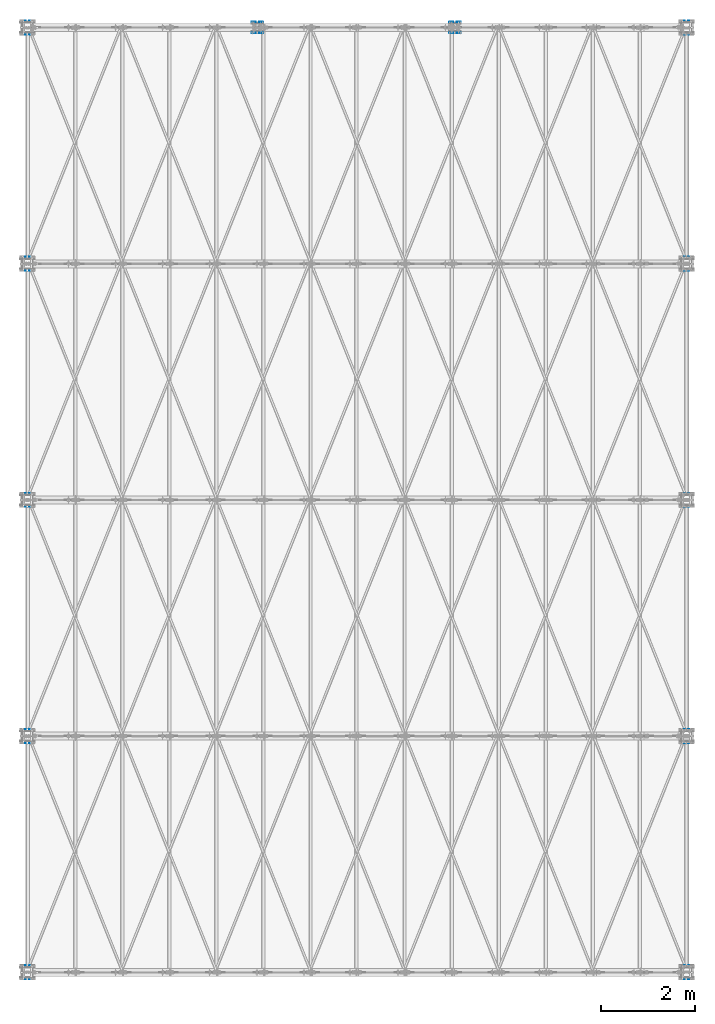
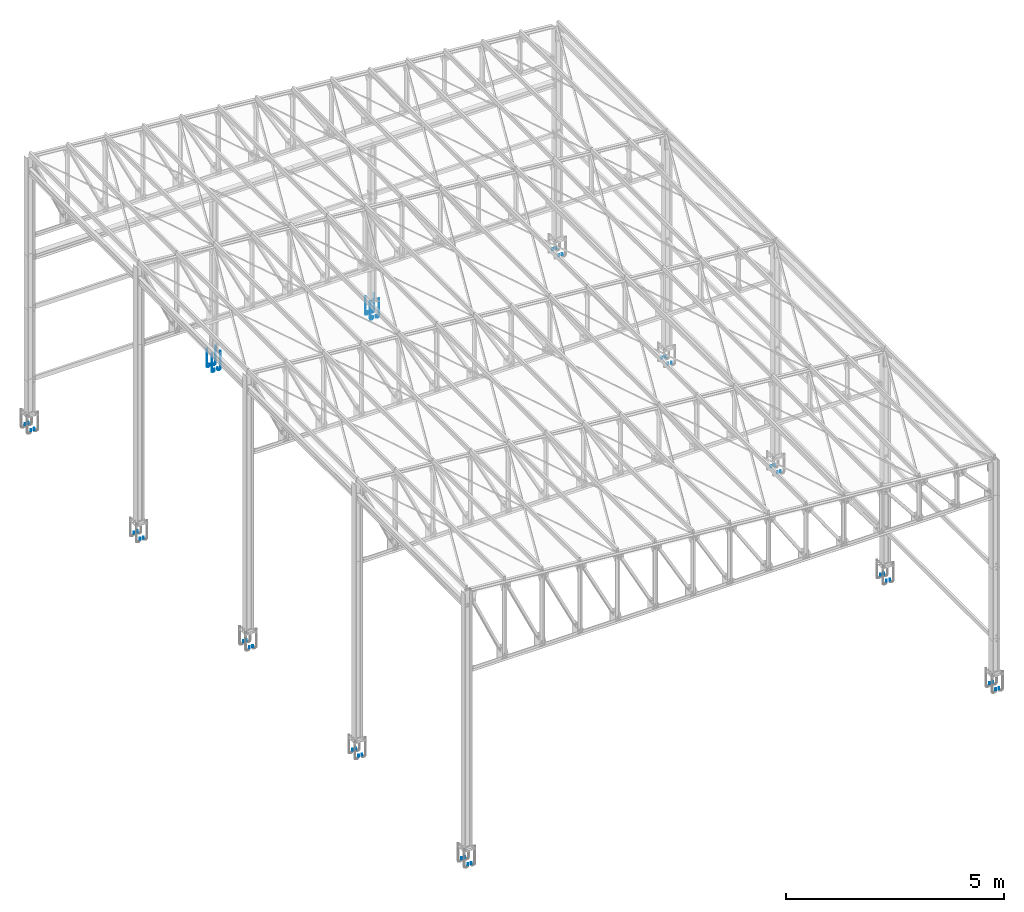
# One storey, part 18 of 251: 4 reinforcing bars.
"""IFC4 building model written with IfcOpenShell, lengths in metres."""

from ifc_helpers import new_model, entity, si_unit, origin_with_axes, place, context, project, spatial, source, transform, mapped, element, save


model = new_model("IFC4")

# Units and contexts
model_context = context("Model", 3, precision=1e-05, world=origin_with_axes())
ifc_project = project(units=[si_unit("LENGTHUNIT", "METRE"), si_unit("AREAUNIT", "SQUARE_METRE"), si_unit("VOLUMEUNIT", "CUBIC_METRE"), si_unit("MASSUNIT", "GRAM", prefix="KILO"), si_unit("TIMEUNIT", "SECOND"), si_unit("PLANEANGLEUNIT", "RADIAN"), si_unit("SOLIDANGLEUNIT", "STERADIAN"), si_unit("THERMODYNAMICTEMPERATUREUNIT", "DEGREE_CELSIUS")], contexts=[model_context])

# Site, building, storey
placement_1 = place(None, origin_with_axes())
site = spatial("IfcSite", under=ifc_project, at=placement_1, Name="Italia", CompositionType="ELEMENT")
building = spatial("IfcBuilding", under=site, at=placement_1, Name="Deposito", CompositionType="ELEMENT")
storey = spatial("IfcBuildingStorey", under=building, at=placement_1, Name="Storey 0", CompositionType="ELEMENT", Elevation=0.0)

# Reinforcing bars
shared_shape_1 = source(origin_with_axes(), model_context, "Body", "AdvancedSweptSolid", [
    entity("IfcSweptDiskSolid", entity("IfcIndexedPolyCurve", entity("IfcCartesianPointList3D", [[20.0435, -0.139, -0.344], [20.0435, -0.139, -0.296]]), [entity("IfcLineIndex", [1, 2])], False), 0.008),
])
placement_2 = place(placement_1, origin_with_axes())
reinforcing_bar_1_placement = place(placement_2, origin_with_axes())
element("IfcReinforcingBar", 1, at=reinforcing_bar_1_placement, inside=storey, BarLength=0.0479995, CrossSectionArea=0.00020106, NominalDiameter=0.016, context=model_context, shape_type="MappedRepresentation", body=[
    mapped(shared_shape_1, transform((-14.037, 15.0, 0.0), x_axis=(1.0, 0.0, 0.0), y_axis=(0.0, 1.0, 0.0), z_axis=(0.0, 0.0, 1.0), scale=1.0)),
    mapped(shared_shape_1, transform((-13.95, 15.278, 0.0), x_axis=(1.0, 0.0, 0.0), y_axis=(0.0, 1.0, 0.0), z_axis=(0.0, 0.0, 1.0), scale=1.0)),
    mapped(shared_shape_1, transform((0.0, 15.0, 0.0), x_axis=(1.0, 0.0, 0.0), y_axis=(0.0, 1.0, 0.0), z_axis=(0.0, 0.0, 1.0), scale=1.0)),
    mapped(shared_shape_1, transform((-14.037, 15.278, 0.0), x_axis=(1.0, 0.0, 0.0), y_axis=(0.0, 1.0, 0.0), z_axis=(0.0, 0.0, 1.0), scale=1.0)),
    mapped(shared_shape_1, transform((0.0, 10.0, 0.0), x_axis=(1.0, 0.0, 0.0), y_axis=(0.0, 1.0, 0.0), z_axis=(0.0, 0.0, 1.0), scale=1.0)),
    mapped(shared_shape_1, transform((0.0, 15.278, 0.0), x_axis=(1.0, 0.0, 0.0), y_axis=(0.0, 1.0, 0.0), z_axis=(0.0, 0.0, 1.0), scale=1.0)),
    mapped(shared_shape_1, transform((-0.086998, 10.0, 0.0), x_axis=(1.0, 0.0, 0.0), y_axis=(0.0, 1.0, 0.0), z_axis=(0.0, 0.0, 1.0), scale=1.0)),
    mapped(shared_shape_1, transform((0.0, 10.278, 0.0), x_axis=(1.0, 0.0, 0.0), y_axis=(0.0, 1.0, 0.0), z_axis=(0.0, 0.0, 1.0), scale=1.0)),
    mapped(shared_shape_1, transform((-13.95, 15.0, 0.0), x_axis=(1.0, 0.0, 0.0), y_axis=(0.0, 1.0, 0.0), z_axis=(0.0, 0.0, 1.0), scale=1.0)),
    mapped(shared_shape_1, transform((-0.086998, 10.278, 0.0), x_axis=(1.0, 0.0, 0.0), y_axis=(0.0, 1.0, 0.0), z_axis=(0.0, 0.0, 1.0), scale=1.0)),
    mapped(shared_shape_1, transform((0.0, 20.0, 0.0), x_axis=(1.0, 0.0, 0.0), y_axis=(0.0, 1.0, 0.0), z_axis=(0.0, 0.0, 1.0), scale=1.0)),
    mapped(shared_shape_1, transform((-14.037, 20.278, 0.0), x_axis=(1.0, 0.0, 0.0), y_axis=(0.0, 1.0, 0.0), z_axis=(0.0, 0.0, 1.0), scale=1.0)),
    mapped(shared_shape_1, transform((-0.086998, 20.0, 0.0), x_axis=(1.0, 0.0, 0.0), y_axis=(0.0, 1.0, 0.0), z_axis=(0.0, 0.0, 1.0), scale=1.0)),
    mapped(shared_shape_1, transform((0.0, 20.278, 0.0), x_axis=(1.0, 0.0, 0.0), y_axis=(0.0, 1.0, 0.0), z_axis=(0.0, 0.0, 1.0), scale=1.0)),
    mapped(shared_shape_1, transform((-0.086998, 15.0, 0.0), x_axis=(1.0, 0.0, 0.0), y_axis=(0.0, 1.0, 0.0), z_axis=(0.0, 0.0, 1.0), scale=1.0)),
    mapped(shared_shape_1, transform((-0.086998, 20.278, 0.0), x_axis=(1.0, 0.0, 0.0), y_axis=(0.0, 1.0, 0.0), z_axis=(0.0, 0.0, 1.0), scale=1.0)),
    mapped(shared_shape_1, transform((-13.95, 20.0, 0.0), x_axis=(1.0, 0.0, 0.0), y_axis=(0.0, 1.0, 0.0), z_axis=(0.0, 0.0, 1.0), scale=1.0)),
    mapped(shared_shape_1, transform((-0.086998, 15.278, 0.0), x_axis=(1.0, 0.0, 0.0), y_axis=(0.0, 1.0, 0.0), z_axis=(0.0, 0.0, 1.0), scale=1.0)),
    mapped(shared_shape_1, transform((-14.037, 20.0, 0.0), x_axis=(1.0, 0.0, 0.0), y_axis=(0.0, 1.0, 0.0), z_axis=(0.0, 0.0, 1.0), scale=1.0)),
    mapped(shared_shape_1, transform((-13.95, 20.278, 0.0), x_axis=(1.0, 0.0, 0.0), y_axis=(0.0, 1.0, 0.0), z_axis=(0.0, 0.0, 1.0), scale=1.0)),
    mapped(shared_shape_1, transform((-14.037, 0.0, 0.0), x_axis=(1.0, 0.0, 0.0), y_axis=(0.0, 1.0, 0.0), z_axis=(0.0, 0.0, 1.0), scale=1.0)),
    mapped(shared_shape_1, transform((-13.95, 0.278, 0.0), x_axis=(1.0, 0.0, 0.0), y_axis=(0.0, 1.0, 0.0), z_axis=(0.0, 0.0, 1.0), scale=1.0)),
    mapped(shared_shape_1, transform((-13.95, 5.0, 0.0), x_axis=(1.0, 0.0, 0.0), y_axis=(0.0, 1.0, 0.0), z_axis=(0.0, 0.0, 1.0), scale=1.0)),
    mapped(shared_shape_1, transform((-14.037, 0.278, 0.0), x_axis=(1.0, 0.0, 0.0), y_axis=(0.0, 1.0, 0.0), z_axis=(0.0, 0.0, 1.0), scale=1.0)),
    mapped(shared_shape_1, transform((0.0, 0.0, 0.0), x_axis=(1.0, 0.0, 0.0), y_axis=(0.0, 1.0, 0.0), z_axis=(0.0, 0.0, 1.0), scale=1.0)),
    mapped(shared_shape_1, transform((-13.95, 5.278, 0.0), x_axis=(1.0, 0.0, 0.0), y_axis=(0.0, 1.0, 0.0), z_axis=(0.0, 0.0, 1.0), scale=1.0)),
    mapped(shared_shape_1, transform((-0.086998, 0.0, 0.0), x_axis=(1.0, 0.0, 0.0), y_axis=(0.0, 1.0, 0.0), z_axis=(0.0, 0.0, 1.0), scale=1.0)),
    mapped(shared_shape_1, transform((0.0, 0.278, 0.0), x_axis=(1.0, 0.0, 0.0), y_axis=(0.0, 1.0, 0.0), z_axis=(0.0, 0.0, 1.0), scale=1.0)),
    mapped(shared_shape_1, transform((-13.95, 0.0, 0.0), x_axis=(1.0, 0.0, 0.0), y_axis=(0.0, 1.0, 0.0), z_axis=(0.0, 0.0, 1.0), scale=1.0)),
    mapped(shared_shape_1, transform((-0.086998, 0.278, 0.0), x_axis=(1.0, 0.0, 0.0), y_axis=(0.0, 1.0, 0.0), z_axis=(0.0, 0.0, 1.0), scale=1.0)),
    mapped(shared_shape_1, transform((-13.95, 10.0, 0.0), x_axis=(1.0, 0.0, 0.0), y_axis=(0.0, 1.0, 0.0), z_axis=(0.0, 0.0, 1.0), scale=1.0)),
    mapped(shared_shape_1, transform((-0.086998, 5.278, 0.0), x_axis=(1.0, 0.0, 0.0), y_axis=(0.0, 1.0, 0.0), z_axis=(0.0, 0.0, 1.0), scale=1.0)),
    mapped(shared_shape_1, transform((-14.037, 10.0, 0.0), x_axis=(1.0, 0.0, 0.0), y_axis=(0.0, 1.0, 0.0), z_axis=(0.0, 0.0, 1.0), scale=1.0)),
    mapped(shared_shape_1, transform((-13.95, 10.278, 0.0), x_axis=(1.0, 0.0, 0.0), y_axis=(0.0, 1.0, 0.0), z_axis=(0.0, 0.0, 1.0), scale=1.0)),
    mapped(shared_shape_1, transform((-14.037, 5.0, 0.0), x_axis=(1.0, 0.0, 0.0), y_axis=(0.0, 1.0, 0.0), z_axis=(0.0, 0.0, 1.0), scale=1.0)),
    mapped(shared_shape_1, transform((-14.037, 10.278, 0.0), x_axis=(1.0, 0.0, 0.0), y_axis=(0.0, 1.0, 0.0), z_axis=(0.0, 0.0, 1.0), scale=1.0)),
    mapped(shared_shape_1, transform((0.0, 5.0, 0.0), x_axis=(1.0, 0.0, 0.0), y_axis=(0.0, 1.0, 0.0), z_axis=(0.0, 0.0, 1.0), scale=1.0)),
    mapped(shared_shape_1, transform((-14.037, 5.278, 0.0), x_axis=(1.0, 0.0, 0.0), y_axis=(0.0, 1.0, 0.0), z_axis=(0.0, 0.0, 1.0), scale=1.0)),
    mapped(shared_shape_1, transform((-0.086998, 5.0, 0.0), x_axis=(1.0, 0.0, 0.0), y_axis=(0.0, 1.0, 0.0), z_axis=(0.0, 0.0, 1.0), scale=1.0)),
    mapped(shared_shape_1, transform((0.0, 5.278, 0.0), x_axis=(1.0, 0.0, 0.0), y_axis=(0.0, 1.0, 0.0), z_axis=(0.0, 0.0, 1.0), scale=1.0)),
])
shared_shape_2 = source(origin_with_axes(), model_context, "Body", "AdvancedSweptSolid", [
    entity("IfcSweptDiskSolid", entity("IfcIndexedPolyCurve", entity("IfcCartesianPointList3D", [[11.028, 19.886, 0.12], [11.028, 19.886, -0.358]]), [entity("IfcLineIndex", [1, 2])], False), 0.006),
])
reinforcing_bar_2_placement = place(placement_2, origin_with_axes())
element("IfcReinforcingBar", 2, at=reinforcing_bar_2_placement, inside=storey, BarLength=0.478, CrossSectionArea=0.0001131, NominalDiameter=0.012, context=model_context, shape_type="MappedRepresentation", body=[
    mapped(shared_shape_2, transform((4.185, 0.228001, 0.0), x_axis=(1.0, 0.0, 0.0), y_axis=(0.0, 1.0, 0.0), z_axis=(0.0, 0.0, 1.0), scale=1.0)),
    mapped(shared_shape_2, transform((4.185, 0.0, 0.0), x_axis=(1.0, 0.0, 0.0), y_axis=(0.0, 1.0, 0.0), z_axis=(0.0, 0.0, 1.0), scale=1.0)),
    mapped(shared_shape_2, transform((3.959, 0.228001, 0.0), x_axis=(1.0, 0.0, 0.0), y_axis=(0.0, 1.0, 0.0), z_axis=(0.0, 0.0, 1.0), scale=1.0)),
    mapped(shared_shape_2, transform((3.959, 0.0, 0.0), x_axis=(1.0, 0.0, 0.0), y_axis=(0.0, 1.0, 0.0), z_axis=(0.0, 0.0, 1.0), scale=1.0)),
    mapped(shared_shape_2, transform((0.0, 0.228001, 0.0), x_axis=(1.0, 0.0, 0.0), y_axis=(0.0, 1.0, 0.0), z_axis=(0.0, 0.0, 1.0), scale=1.0)),
    mapped(shared_shape_2, transform((0.0, 0.0, 0.0), x_axis=(1.0, 0.0, 0.0), y_axis=(0.0, 1.0, 0.0), z_axis=(0.0, 0.0, 1.0), scale=1.0)),
    mapped(shared_shape_2, transform((-0.226, 0.228001, 0.0), x_axis=(1.0, 0.0, 0.0), y_axis=(0.0, 1.0, 0.0), z_axis=(0.0, 0.0, 1.0), scale=1.0)),
    mapped(shared_shape_2, transform((-0.226, 0.0, 0.0), x_axis=(1.0, 0.0, 0.0), y_axis=(0.0, 1.0, 0.0), z_axis=(0.0, 0.0, 1.0), scale=1.0)),
])
shared_shape_3 = source(origin_with_axes(), model_context, "Body", "AdvancedSweptSolid", [
    entity("IfcSweptDiskSolid", entity("IfcIndexedPolyCurve", entity("IfcCartesianPointList3D", [[11.028, 19.886, -0.358], [11.0253, 19.886, -0.371777]]), [entity("IfcLineIndex", [1, 2])], False), 0.006),
])
reinforcing_bar_3_placement = place(placement_2, origin_with_axes())
element("IfcReinforcingBar", 3, at=reinforcing_bar_3_placement, inside=storey, BarLength=0.0140467, CrossSectionArea=0.0001131, NominalDiameter=0.012, context=model_context, shape_type="MappedRepresentation", body=[
    mapped(shared_shape_3, transform((21.83, 39.772, 0.0), x_axis=(-1.0, 0.0, 0.0), y_axis=(0.0, -1.0, 0.0), z_axis=(0.0, 0.0, 1.0), scale=1.0)),
    mapped(shared_shape_3, transform((21.83, 40.0, 0.0), x_axis=(-1.0, 0.0, 0.0), y_axis=(0.0, -1.0, 0.0), z_axis=(0.0, 0.0, 1.0), scale=1.0)),
    mapped(shared_shape_3, transform((11.3496, 0.0, 10.634), x_axis=(3.98755e-05, 0.0, -1.0), y_axis=(0.0, 1.0, 0.0), z_axis=(1.0, 0.0, 3.98755e-05), scale=1.0)),
    mapped(shared_shape_3, transform((15.5288, 0.0, 9.66048), x_axis=(-0.382643, 0.0, -0.923896), y_axis=(0.0, 1.0, 0.0), z_axis=(0.923896, 0.0, -0.382643), scale=1.0)),
    mapped(shared_shape_3, transform((0.973313, 0.0, 4.17832), x_axis=(0.923913, 0.0, -0.382602), y_axis=(0.0, 1.0, 0.0), z_axis=(0.382602, 0.0, 0.923913), scale=1.0)),
    mapped(shared_shape_3, transform((21.284, 0.0, 3.51836), x_axis=(-0.923856, 0.0, -0.382741), y_axis=(0.0, 1.0, 0.0), z_axis=(0.382741, 0.0, -0.923855), scale=1.0)),
    mapped(shared_shape_3, transform((0.0, 0.0, 0.0), x_axis=(1.0, 0.0, 0.0), y_axis=(0.0, 1.0, 0.0), z_axis=(0.0, 0.0, 1.0), scale=1.0)),
    mapped(shared_shape_3, transform((3.47248, 0.227999, 7.66752), x_axis=(0.70712, 0.0, -0.707094), y_axis=(0.0, 1.0, 0.0), z_axis=(0.707094, 0.0, 0.70712), scale=1.0)),
    mapped(shared_shape_3, transform((7.11586, 0.0, 9.93412), x_axis=(0.382722, 0.0, -0.923864), y_axis=(0.0, 1.0, 0.0), z_axis=(0.923864, 0.0, 0.382722), scale=1.0)),
    mapped(shared_shape_3, transform((19.0174, 0.0, 7.16163), x_axis=(-0.707084, 0.0, -0.70713), y_axis=(0.0, 1.0, 0.0), z_axis=(0.70713, 0.0, -0.707084), scale=1.0)),
    mapped(shared_shape_3, transform((19.7138, 0.0, 9.66048), x_axis=(-0.382643, 0.0, -0.923896), y_axis=(0.0, 1.0, 0.0), z_axis=(0.923896, 0.0, -0.382643), scale=1.0)),
    mapped(shared_shape_3, transform((0.0, 0.227999, 0.0), x_axis=(1.0, 0.0, 0.0), y_axis=(0.0, 1.0, 0.0), z_axis=(0.0, 0.0, 1.0), scale=1.0)),
    mapped(shared_shape_3, transform((0.545959, 39.772, 3.51836), x_axis=(0.923856, 0.0, -0.382741), y_axis=(0.0, -1.0, 0.0), z_axis=(-0.382741, 0.0, -0.923855), scale=1.0)),
    mapped(shared_shape_3, transform((0.545959, 40.0, 3.51836), x_axis=(0.923856, 0.0, -0.382741), y_axis=(0.0, -1.0, 0.0), z_axis=(-0.382741, 0.0, -0.923855), scale=1.0)),
    mapped(shared_shape_3, transform((3.47248, 0.0, 7.66752), x_axis=(0.70712, 0.0, -0.707094), y_axis=(0.0, 1.0, 0.0), z_axis=(0.707094, 0.0, 0.70712), scale=1.0)),
    mapped(shared_shape_3, transform((0.973313, 0.227999, 4.17832), x_axis=(0.923913, 0.0, -0.382602), y_axis=(0.0, 1.0, 0.0), z_axis=(0.382602, 0.0, 0.923913), scale=1.0)),
    mapped(shared_shape_3, transform((2.81258, 39.772, 7.16163), x_axis=(0.707084, 0.0, -0.70713), y_axis=(0.0, -1.0, 0.0), z_axis=(-0.70713, 0.0, -0.707084), scale=1.0)),
    mapped(shared_shape_3, transform((2.81258, 40.0, 7.16163), x_axis=(0.707084, 0.0, -0.70713), y_axis=(0.0, -1.0, 0.0), z_axis=(-0.70713, 0.0, -0.707084), scale=1.0)),
    mapped(shared_shape_3, transform((26.015, 39.772, 0.0), x_axis=(-1.0, 0.0, 0.0), y_axis=(0.0, -1.0, 0.0), z_axis=(0.0, 0.0, 1.0), scale=1.0)),
    mapped(shared_shape_3, transform((26.015, 40.0, 0.0), x_axis=(-1.0, 0.0, 0.0), y_axis=(0.0, -1.0, 0.0), z_axis=(0.0, 0.0, 1.0), scale=1.0)),
    mapped(shared_shape_3, transform((5.15857, 0.0, 4.17888), x_axis=(0.923892, 0.0, -0.382654), y_axis=(0.0, 1.0, 0.0), z_axis=(0.382654, 0.0, 0.923892), scale=1.0)),
    mapped(shared_shape_3, transform((15.5346, 0.0, 10.634), x_axis=(3.98755e-05, 0.0, -1.0), y_axis=(0.0, 1.0, 0.0), z_axis=(1.0, 0.0, 3.98755e-05), scale=1.0)),
    mapped(shared_shape_3, transform((4.185, 0.0, 0.0), x_axis=(1.0, 0.0, 0.0), y_axis=(0.0, 1.0, 0.0), z_axis=(0.0, 0.0, 1.0), scale=1.0)),
    mapped(shared_shape_3, transform((19.0174, 0.227999, 7.16163), x_axis=(-0.707084, 0.0, -0.70713), y_axis=(0.0, 1.0, 0.0), z_axis=(0.70713, 0.0, -0.707084), scale=1.0)),
    mapped(shared_shape_3, transform((5.15857, 0.227999, 4.17888), x_axis=(0.923892, 0.0, -0.382654), y_axis=(0.0, 1.0, 0.0), z_axis=(0.382654, 0.0, 0.923892), scale=1.0)),
    mapped(shared_shape_3, transform((7.11586, 0.227999, 9.93412), x_axis=(0.382722, 0.0, -0.923864), y_axis=(0.0, 1.0, 0.0), z_axis=(0.923864, 0.0, 0.382722), scale=1.0)),
    mapped(shared_shape_3, transform((23.2028, 0.227999, 7.16118), x_axis=(-0.707124, 0.0, -0.70709), y_axis=(0.0, 1.0, 0.0), z_axis=(0.70709, 0.0, -0.707124), scale=1.0)),
    mapped(shared_shape_3, transform((7.65748, 0.227999, 7.66752), x_axis=(0.70712, 0.0, -0.707094), y_axis=(0.0, 1.0, 0.0), z_axis=(0.707094, 0.0, 0.70712), scale=1.0)),
    mapped(shared_shape_3, transform((21.284, 0.227999, 3.51836), x_axis=(-0.923856, 0.0, -0.382741), y_axis=(0.0, 1.0, 0.0), z_axis=(0.382741, 0.0, -0.923855), scale=1.0)),
    mapped(shared_shape_3, transform((25.469, 0.0, 3.51836), x_axis=(-0.923856, 0.0, -0.382741), y_axis=(0.0, 1.0, 0.0), z_axis=(0.382741, 0.0, -0.923855), scale=1.0)),
    mapped(shared_shape_3, transform((4.185, 0.227999, 0.0), x_axis=(1.0, 0.0, 0.0), y_axis=(0.0, 1.0, 0.0), z_axis=(0.0, 0.0, 1.0), scale=1.0)),
    mapped(shared_shape_3, transform((20.8567, 39.772, 4.17832), x_axis=(-0.923913, 0.0, -0.382602), y_axis=(0.0, -1.0, 0.0), z_axis=(-0.382602, 0.0, 0.923913), scale=1.0)),
    mapped(shared_shape_3, transform((18.3575, 39.772, 7.66752), x_axis=(-0.70712, 0.0, -0.707094), y_axis=(0.0, -1.0, 0.0), z_axis=(-0.707094, 0.0, 0.70712), scale=1.0)),
    mapped(shared_shape_3, transform((22.5425, 39.772, 7.66752), x_axis=(-0.70712, 0.0, -0.707094), y_axis=(0.0, -1.0, 0.0), z_axis=(-0.707094, 0.0, 0.70712), scale=1.0)),
    mapped(shared_shape_3, transform((6.30123, 39.772, 9.66048), x_axis=(0.382643, 0.0, -0.923896), y_axis=(0.0, -1.0, 0.0), z_axis=(-0.923896, 0.0, -0.382643), scale=1.0)),
    mapped(shared_shape_3, transform((6.99716, 39.772, 7.16118), x_axis=(0.707124, 0.0, -0.70709), y_axis=(0.0, -1.0, 0.0), z_axis=(-0.70709, 0.0, -0.707124), scale=1.0)),
    mapped(shared_shape_3, transform((25.0414, 39.772, 4.17888), x_axis=(-0.923892, 0.0, -0.382654), y_axis=(0.0, -1.0, 0.0), z_axis=(-0.382654, 0.0, 0.923892), scale=1.0)),
    mapped(shared_shape_3, transform((4.73096, 39.772, 3.51836), x_axis=(0.923856, 0.0, -0.382741), y_axis=(0.0, -1.0, 0.0), z_axis=(-0.382741, 0.0, -0.923855), scale=1.0)),
    mapped(shared_shape_3, transform((25.0414, 40.0, 4.17888), x_axis=(-0.923892, 0.0, -0.382654), y_axis=(0.0, -1.0, 0.0), z_axis=(-0.382654, 0.0, 0.923892), scale=1.0)),
    mapped(shared_shape_3, transform((22.5425, 40.0, 7.66752), x_axis=(-0.70712, 0.0, -0.707094), y_axis=(0.0, -1.0, 0.0), z_axis=(-0.707094, 0.0, 0.70712), scale=1.0)),
    mapped(shared_shape_3, transform((20.8567, 40.0, 4.17832), x_axis=(-0.923913, 0.0, -0.382602), y_axis=(0.0, -1.0, 0.0), z_axis=(-0.382602, 0.0, 0.923913), scale=1.0)),
    mapped(shared_shape_3, transform((18.3575, 40.0, 7.66752), x_axis=(-0.70712, 0.0, -0.707094), y_axis=(0.0, -1.0, 0.0), z_axis=(-0.707094, 0.0, 0.70712), scale=1.0)),
    mapped(shared_shape_3, transform((6.30123, 40.0, 9.66048), x_axis=(0.382643, 0.0, -0.923896), y_axis=(0.0, -1.0, 0.0), z_axis=(-0.923896, 0.0, -0.382643), scale=1.0)),
    mapped(shared_shape_3, transform((6.99716, 40.0, 7.16118), x_axis=(0.707124, 0.0, -0.70709), y_axis=(0.0, -1.0, 0.0), z_axis=(-0.70709, 0.0, -0.707124), scale=1.0)),
    mapped(shared_shape_3, transform((4.73096, 40.0, 3.51836), x_axis=(0.923856, 0.0, -0.382741), y_axis=(0.0, -1.0, 0.0), z_axis=(-0.382741, 0.0, -0.923855), scale=1.0)),
    mapped(shared_shape_3, transform((11.3009, 0.0, 9.93412), x_axis=(0.382722, 0.0, -0.923864), y_axis=(0.0, 1.0, 0.0), z_axis=(0.923864, 0.0, 0.382722), scale=1.0)),
    mapped(shared_shape_3, transform((23.2028, 0.0, 7.16118), x_axis=(-0.707124, 0.0, -0.70709), y_axis=(0.0, 1.0, 0.0), z_axis=(0.70709, 0.0, -0.707124), scale=1.0)),
    mapped(shared_shape_3, transform((25.469, 0.227999, 3.51836), x_axis=(-0.923856, 0.0, -0.382741), y_axis=(0.0, 1.0, 0.0), z_axis=(0.382741, 0.0, -0.923855), scale=1.0)),
    mapped(shared_shape_3, transform((7.65748, 0.0, 7.66752), x_axis=(0.70712, 0.0, -0.707094), y_axis=(0.0, 1.0, 0.0), z_axis=(0.707094, 0.0, 0.70712), scale=1.0)),
    mapped(shared_shape_3, transform((10.4804, 40.0, 10.634), x_axis=(-3.98755e-05, 0.0, -1.0), y_axis=(0.0, -1.0, 0.0), z_axis=(-1.0, 0.0, 3.98755e-05), scale=1.0)),
    mapped(shared_shape_3, transform((10.4862, 40.0, 9.66048), x_axis=(0.382643, 0.0, -0.923896), y_axis=(0.0, -1.0, 0.0), z_axis=(-0.923896, 0.0, -0.382643), scale=1.0)),
    mapped(shared_shape_3, transform((14.7141, 39.772, 9.93412), x_axis=(-0.382722, 0.0, -0.923864), y_axis=(0.0, -1.0, 0.0), z_axis=(-0.923864, 0.0, 0.382722), scale=1.0)),
    mapped(shared_shape_3, transform((10.4804, 39.772, 10.634), x_axis=(-3.98755e-05, 0.0, -1.0), y_axis=(0.0, -1.0, 0.0), z_axis=(-1.0, 0.0, 3.98755e-05), scale=1.0)),
    mapped(shared_shape_3, transform((10.4862, 39.772, 9.66048), x_axis=(0.382643, 0.0, -0.923896), y_axis=(0.0, -1.0, 0.0), z_axis=(-0.923896, 0.0, -0.382643), scale=1.0)),
    mapped(shared_shape_3, transform((14.7141, 40.0, 9.93412), x_axis=(-0.382722, 0.0, -0.923864), y_axis=(0.0, -1.0, 0.0), z_axis=(-0.923864, 0.0, 0.382722), scale=1.0)),
    mapped(shared_shape_3, transform((11.3496, 0.227999, 10.634), x_axis=(3.98755e-05, 0.0, -1.0), y_axis=(0.0, 1.0, 0.0), z_axis=(1.0, 0.0, 3.98755e-05), scale=1.0)),
    mapped(shared_shape_3, transform((15.5288, 0.227999, 9.66048), x_axis=(-0.382643, 0.0, -0.923896), y_axis=(0.0, 1.0, 0.0), z_axis=(0.923896, 0.0, -0.382643), scale=1.0)),
    mapped(shared_shape_3, transform((18.8991, 40.0, 9.93412), x_axis=(-0.382722, 0.0, -0.923864), y_axis=(0.0, -1.0, 0.0), z_axis=(-0.923864, 0.0, 0.382722), scale=1.0)),
    mapped(shared_shape_3, transform((18.8991, 39.772, 9.93412), x_axis=(-0.382722, 0.0, -0.923864), y_axis=(0.0, -1.0, 0.0), z_axis=(-0.923864, 0.0, 0.382722), scale=1.0)),
    mapped(shared_shape_3, transform((15.5346, 0.227999, 10.634), x_axis=(3.98755e-05, 0.0, -1.0), y_axis=(0.0, 1.0, 0.0), z_axis=(1.0, 0.0, 3.98755e-05), scale=1.0)),
    mapped(shared_shape_3, transform((19.7138, 0.227999, 9.66048), x_axis=(-0.382643, 0.0, -0.923896), y_axis=(0.0, 1.0, 0.0), z_axis=(0.923896, 0.0, -0.382643), scale=1.0)),
    mapped(shared_shape_3, transform((11.3009, 0.227999, 9.93412), x_axis=(0.382722, 0.0, -0.923864), y_axis=(0.0, 1.0, 0.0), z_axis=(0.923864, 0.0, 0.382722), scale=1.0)),
    mapped(shared_shape_3, transform((14.6654, 40.0, 10.634), x_axis=(-3.98755e-05, 0.0, -1.0), y_axis=(0.0, -1.0, 0.0), z_axis=(-1.0, 0.0, 3.98755e-05), scale=1.0)),
    mapped(shared_shape_3, transform((14.6654, 39.772, 10.634), x_axis=(-3.98755e-05, 0.0, -1.0), y_axis=(0.0, -1.0, 0.0), z_axis=(-1.0, 0.0, 3.98755e-05), scale=1.0)),
])
shared_shape_4 = source(origin_with_axes(), model_context, "Body", "AdvancedSweptSolid", [
    entity("IfcSweptDiskSolid", entity("IfcIndexedPolyCurve", entity("IfcCartesianPointList3D", [[10.956, 19.886, -0.357999], [10.956, 19.886, -0.322]]), [entity("IfcLineIndex", [1, 2])], False), 0.006),
])
reinforcing_bar_4_placement = place(placement_2, origin_with_axes())
element("IfcReinforcingBar", 4, at=reinforcing_bar_4_placement, inside=storey, BarLength=0.0359994, CrossSectionArea=0.0001131, NominalDiameter=0.012, context=model_context, shape_type="MappedRepresentation", body=[
    mapped(shared_shape_4, transform((4.185, 0.228001, 0.0), x_axis=(1.0, 0.0, 0.0), y_axis=(0.0, 1.0, 0.0), z_axis=(0.0, 0.0, 1.0), scale=1.0)),
    mapped(shared_shape_4, transform((4.185, 0.0, 0.0), x_axis=(1.0, 0.0, 0.0), y_axis=(0.0, 1.0, 0.0), z_axis=(0.0, 0.0, 1.0), scale=1.0)),
    mapped(shared_shape_4, transform((4.103, 0.228001, 0.0), x_axis=(1.0, 0.0, 0.0), y_axis=(0.0, 1.0, 0.0), z_axis=(0.0, 0.0, 1.0), scale=1.0)),
    mapped(shared_shape_4, transform((4.103, 0.0, 0.0), x_axis=(1.0, 0.0, 0.0), y_axis=(0.0, 1.0, 0.0), z_axis=(0.0, 0.0, 1.0), scale=1.0)),
    mapped(shared_shape_4, transform((0.0, 0.228001, 0.0), x_axis=(1.0, 0.0, 0.0), y_axis=(0.0, 1.0, 0.0), z_axis=(0.0, 0.0, 1.0), scale=1.0)),
    mapped(shared_shape_4, transform((0.0, 0.0, 0.0), x_axis=(1.0, 0.0, 0.0), y_axis=(0.0, 1.0, 0.0), z_axis=(0.0, 0.0, 1.0), scale=1.0)),
    mapped(shared_shape_4, transform((-0.0819988, 0.228001, 0.0), x_axis=(1.0, 0.0, 0.0), y_axis=(0.0, 1.0, 0.0), z_axis=(0.0, 0.0, 1.0), scale=1.0)),
    mapped(shared_shape_4, transform((-0.0819988, 0.0, 0.0), x_axis=(1.0, 0.0, 0.0), y_axis=(0.0, 1.0, 0.0), z_axis=(0.0, 0.0, 1.0), scale=1.0)),
])

save(model, "model.ifc")
